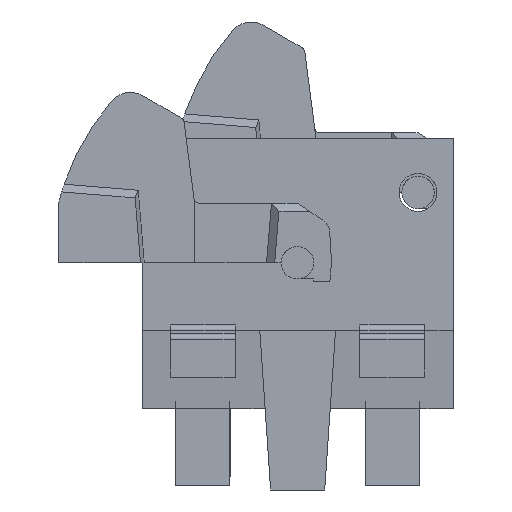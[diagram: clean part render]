
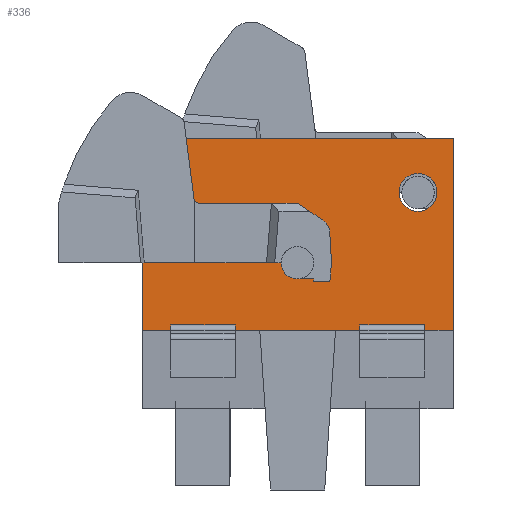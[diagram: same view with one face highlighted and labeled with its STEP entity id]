
A CAD part, front view. The second image highlights one B-rep face of the part: STEP entity #336.
In plain terms, the highlighted planar face has unit normal (0, -1, 0).
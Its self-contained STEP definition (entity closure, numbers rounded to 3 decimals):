
#336 = ADVANCED_FACE( '', ( #692, #693 ), #694, .F. );
#692 = FACE_OUTER_BOUND( '', #1103, .T. );
#693 = FACE_BOUND( '', #1104, .T. );
#694 = PLANE( '', #1105 );
#1103 = EDGE_LOOP( '', ( #1919, #1920, #1921, #1922, #1923, #1924, #1925, #1926, #1927, #1928, #1929, #1930 ) );
#1104 = EDGE_LOOP( '', ( #1931 ) );
#1105 = AXIS2_PLACEMENT_3D( '', #1932, #1933, #1934 );
#1919 = ORIENTED_EDGE( '', *, *, #2525, .T. );
#1920 = ORIENTED_EDGE( '', *, *, #2416, .F. );
#1921 = ORIENTED_EDGE( '', *, *, #2745, .F. );
#1922 = ORIENTED_EDGE( '', *, *, #2452, .T. );
#1923 = ORIENTED_EDGE( '', *, *, #2608, .T. );
#1924 = ORIENTED_EDGE( '', *, *, #2746, .F. );
#1925 = ORIENTED_EDGE( '', *, *, #2443, .T. );
#1926 = ORIENTED_EDGE( '', *, *, #2747, .T. );
#1927 = ORIENTED_EDGE( '', *, *, #2566, .T. );
#1928 = ORIENTED_EDGE( '', *, *, #2748, .T. );
#1929 = ORIENTED_EDGE( '', *, *, #2678, .T. );
#1930 = ORIENTED_EDGE( '', *, *, #2749, .T. );
#1931 = ORIENTED_EDGE( '', *, *, #2750, .T. );
#1932 = CARTESIAN_POINT( '', ( -2.87, 0., 2.3 ) );
#1933 = DIRECTION( '', ( 0., 1., 0. ) );
#1934 = DIRECTION( '', ( 0., 0., 1. ) );
#2416 = EDGE_CURVE( '', #2858, #2860, #2861, .T. );
#2443 = EDGE_CURVE( '', #2903, #2907, #2909, .T. );
#2452 = EDGE_CURVE( '', #2925, #2923, #2926, .T. );
#2525 = EDGE_CURVE( '', #3054, #2860, #3055, .T. );
#2566 = EDGE_CURVE( '', #3116, #3117, #3118, .T. );
#2608 = EDGE_CURVE( '', #2923, #3183, #3185, .T. );
#2678 = EDGE_CURVE( '', #3289, #3287, #3290, .T. );
#2745 = EDGE_CURVE( '', #2925, #2858, #3386, .T. );
#2746 = EDGE_CURVE( '', #2903, #3183, #3387, .T. );
#2747 = EDGE_CURVE( '', #2907, #3116, #3388, .T. );
#2748 = EDGE_CURVE( '', #3117, #3289, #3389, .T. );
#2749 = EDGE_CURVE( '', #3287, #3054, #3390, .T. );
#2750 = EDGE_CURVE( '', #3391, #3391, #3392, .T. );
#2858 = VERTEX_POINT( '', #3513 );
#2860 = VERTEX_POINT( '', #3516 );
#2861 = LINE( '', #3517, #3518 );
#2903 = VERTEX_POINT( '', #3574 );
#2907 = VERTEX_POINT( '', #3580 );
#2909 = LINE( '', #3583, #3584 );
#2923 = VERTEX_POINT( '', #3602 );
#2925 = VERTEX_POINT( '', #3605 );
#2926 = LINE( '', #3606, #3607 );
#3054 = VERTEX_POINT( '', #3790 );
#3055 = LINE( '', #3791, #3792 );
#3116 = VERTEX_POINT( '', #3876 );
#3117 = VERTEX_POINT( '', #3877 );
#3118 = LINE( '', #3878, #3879 );
#3183 = VERTEX_POINT( '', #3977 );
#3185 = LINE( '', #3980, #3981 );
#3287 = VERTEX_POINT( '', #4132 );
#3289 = VERTEX_POINT( '', #4135 );
#3290 = LINE( '', #4136, #4137 );
#3386 = LINE( '', #4276, #4277 );
#3387 = LINE( '', #4278, #4279 );
#3388 = LINE( '', #4280, #4281 );
#3389 = LINE( '', #4282, #4283 );
#3390 = LINE( '', #4284, #4285 );
#3391 = VERTEX_POINT( '', #4286 );
#3392 = CIRCLE( '', #4287, 0.35 );
#3513 = CARTESIAN_POINT( '', ( -2.345, 0., -1.15 ) );
#3516 = CARTESIAN_POINT( '', ( -2.345, 0., -1.25 ) );
#3517 = CARTESIAN_POINT( '', ( -2.345, 0., -1.15 ) );
#3518 = VECTOR( '', #4443, 1000. );
#3574 = CARTESIAN_POINT( '', ( 1.155, 0., -1.15 ) );
#3580 = CARTESIAN_POINT( '', ( 2.355, 0., -1.15 ) );
#3583 = CARTESIAN_POINT( '', ( 1.155, 0., -1.15 ) );
#3584 = VECTOR( '', #4473, 1000. );
#3602 = CARTESIAN_POINT( '', ( -1.145, 0., -1.25 ) );
#3605 = CARTESIAN_POINT( '', ( -1.145, 0., -1.15 ) );
#3606 = CARTESIAN_POINT( '', ( -1.145, 0., -1.15 ) );
#3607 = VECTOR( '', #4482, 1000. );
#3790 = CARTESIAN_POINT( '', ( -2.87, 0., -1.25 ) );
#3791 = CARTESIAN_POINT( '', ( -4.998, 0., -1.25 ) );
#3792 = VECTOR( '', #4556, 1000. );
#3876 = CARTESIAN_POINT( '', ( 2.355, 0., -1.25 ) );
#3877 = CARTESIAN_POINT( '', ( 2.88, 0., -1.25 ) );
#3878 = CARTESIAN_POINT( '', ( -4.998, 0., -1.25 ) );
#3879 = VECTOR( '', #4601, 1000. );
#3977 = CARTESIAN_POINT( '', ( 1.155, 0., -1.25 ) );
#3980 = CARTESIAN_POINT( '', ( -4.998, 0., -1.25 ) );
#3981 = VECTOR( '', #4636, 1000. );
#4132 = CARTESIAN_POINT( '', ( -2.87, 0., 2.3 ) );
#4135 = CARTESIAN_POINT( '', ( 2.88, 0., 2.3 ) );
#4136 = CARTESIAN_POINT( '', ( 2.88, 0., 2.3 ) );
#4137 = VECTOR( '', #4696, 1000. );
#4276 = CARTESIAN_POINT( '', ( -2.345, 0., -1.15 ) );
#4277 = VECTOR( '', #4758, 1000. );
#4278 = CARTESIAN_POINT( '', ( 1.155, 0., -1.15 ) );
#4279 = VECTOR( '', #4759, 1000. );
#4280 = CARTESIAN_POINT( '', ( 2.355, 0., -1.15 ) );
#4281 = VECTOR( '', #4760, 1000. );
#4282 = CARTESIAN_POINT( '', ( 2.88, 0., -2.7 ) );
#4283 = VECTOR( '', #4761, 1000. );
#4284 = CARTESIAN_POINT( '', ( -2.87, 0., 2.3 ) );
#4285 = VECTOR( '', #4762, 1000. );
#4286 = CARTESIAN_POINT( '', ( 2.58, 0., 1.3 ) );
#4287 = AXIS2_PLACEMENT_3D( '', #4763, #4764, #4765 );
#4443 = DIRECTION( '', ( 0., 0., -1. ) );
#4473 = DIRECTION( '', ( 1., 0., 0. ) );
#4482 = DIRECTION( '', ( 0., 0., -1. ) );
#4556 = DIRECTION( '', ( 1., 0., 0. ) );
#4601 = DIRECTION( '', ( 1., 0., 0. ) );
#4636 = DIRECTION( '', ( 1., 0., 0. ) );
#4696 = DIRECTION( '', ( -1., 0., 0. ) );
#4758 = DIRECTION( '', ( -1., 0., 0. ) );
#4759 = DIRECTION( '', ( 0., 0., -1. ) );
#4760 = DIRECTION( '', ( 0., 0., -1. ) );
#4761 = DIRECTION( '', ( 0., 0., 1. ) );
#4762 = DIRECTION( '', ( 0., 0., -1. ) );
#4763 = CARTESIAN_POINT( '', ( 2.23, 0., 1.3 ) );
#4764 = DIRECTION( '', ( 0., 1., 0. ) );
#4765 = DIRECTION( '', ( 1., 0., 0. ) );
